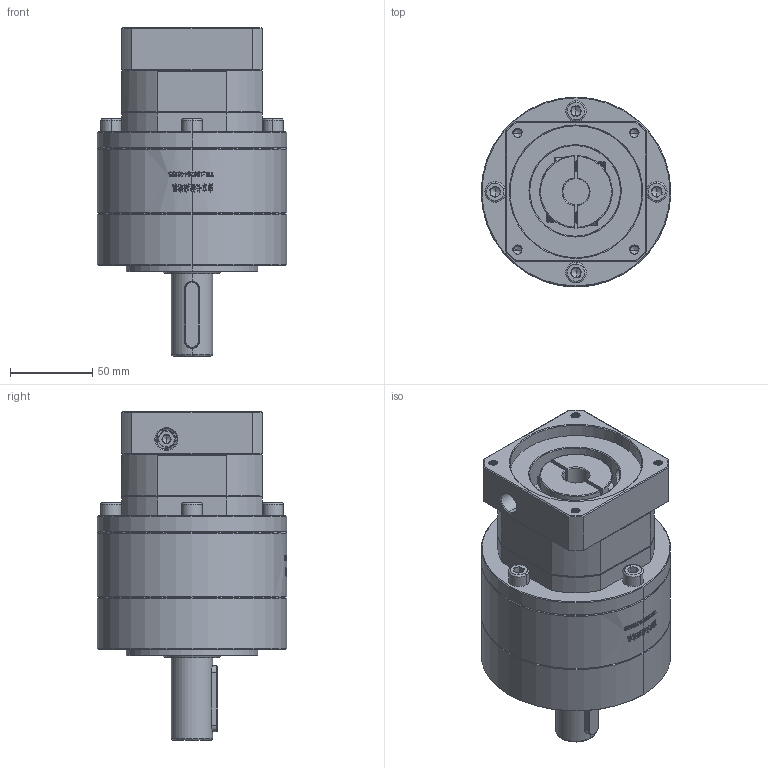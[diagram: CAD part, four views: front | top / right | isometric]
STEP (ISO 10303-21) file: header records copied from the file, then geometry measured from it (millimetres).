
FILE_DESCRIPTION (( 'STEP AP214' ), '1' );
FILE_NAME ('ZE120A-D25-L2-16-80-100-M6.step', '2023-03-13T06:49:05', ( '' ), ( '' ), 'SwSTEP 2.0', 'SolidWorks 2016', '' );
FILE_SCHEMA (( 'AUTOMOTIVE_DESIGN' ));
Length unit declared in the file: millimetre
Products named in the file (1): ZE120A-D25-L2-16-80-100-M6
Bounding box: 115 x 115 x 199 mm (x, y, z)
Volume: 1208216.1 mm3; surface area: 121922.8 mm2
Topology: 5 solids, 6 shells, 2020 faces, 5322 edges, 3393 vertices
Faces by surface type: plane 866, cylinder 500, bspline 333, cone 306, torus 15
Entity records: 116433 total; most frequent: CARTESIAN_POINT 48961, ORIENTED_EDGE 10568, DIRECTION 7901, EDGE_CURVE 5284, VERTEX_POINT 3393, VECTOR 2801, LINE 2801, AXIS2_PLACEMENT_3D 2550
